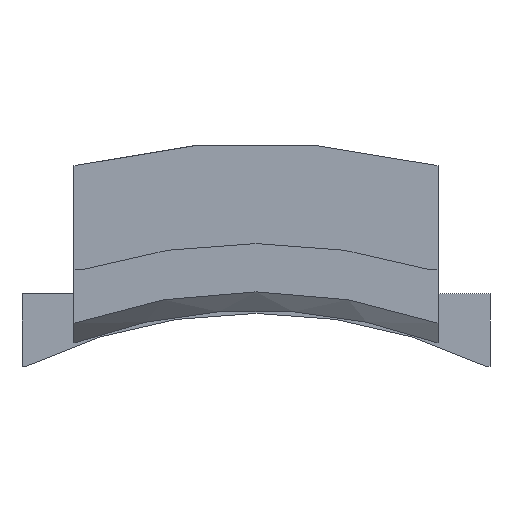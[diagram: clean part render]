
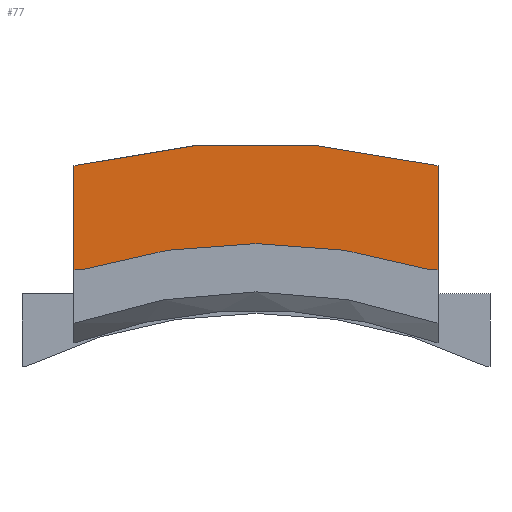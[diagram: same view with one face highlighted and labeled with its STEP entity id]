
A CAD part, front view. The second image highlights one B-rep face of the part: STEP entity #77.
In plain terms, the highlighted planar face has unit normal (0, -1, 0).
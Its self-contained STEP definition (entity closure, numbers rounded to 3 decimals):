
#77 = ADVANCED_FACE( '', ( #110 ), #111, .T. );
#110 = FACE_OUTER_BOUND( '', #170, .T. );
#111 = PLANE( '', #171 );
#170 = EDGE_LOOP( '', ( #252, #253, #254, #255, #256, #257 ) );
#171 = AXIS2_PLACEMENT_3D( '', #258, #259, #260 );
#252 = ORIENTED_EDGE( '', *, *, #486, .T. );
#253 = ORIENTED_EDGE( '', *, *, #503, .T. );
#254 = ORIENTED_EDGE( '', *, *, #504, .T. );
#255 = ORIENTED_EDGE( '', *, *, #505, .F. );
#256 = ORIENTED_EDGE( '', *, *, #506, .T. );
#257 = ORIENTED_EDGE( '', *, *, #488, .T. );
#258 = CARTESIAN_POINT( '', ( 3.225, 0., 8.402 ) );
#259 = DIRECTION( '', ( 0., -1., 0. ) );
#260 = DIRECTION( '', ( 0.358, 0., 0.934 ) );
#486 = EDGE_CURVE( '', #573, #571, #574, .T. );
#488 = EDGE_CURVE( '', #576, #573, #577, .T. );
#503 = EDGE_CURVE( '', #571, #605, #606, .T. );
#504 = EDGE_CURVE( '', #605, #607, #608, .T. );
#505 = EDGE_CURVE( '', #609, #607, #610, .T. );
#506 = EDGE_CURVE( '', #609, #576, #611, .T. );
#571 = VERTEX_POINT( '', #720 );
#573 = VERTEX_POINT( '', #723 );
#574 = CIRCLE( '', #724, 10.154 );
#576 = VERTEX_POINT( '', #727 );
#577 = LINE( '', #728, #729 );
#605 = VERTEX_POINT( '', #787 );
#606 = LINE( '', #788, #789 );
#607 = VERTEX_POINT( '', #790 );
#608 = LINE( '', #791, #792 );
#609 = VERTEX_POINT( '', #793 );
#610 = CIRCLE( '', #794, 8. );
#611 = LINE( '', #795, #796 );
#720 = CARTESIAN_POINT( '', ( -2.45, 0., 9.05 ) );
#723 = CARTESIAN_POINT( '', ( 2.45, 0., 9.05 ) );
#724 = AXIS2_PLACEMENT_3D( '', #970, #971, #972 );
#727 = CARTESIAN_POINT( '', ( 2.45, 0., 7.65 ) );
#728 = CARTESIAN_POINT( '', ( 2.45, 0., 4.201 ) );
#729 = VECTOR( '', #974, 1. );
#787 = CARTESIAN_POINT( '', ( -2.45, 0., 7.65 ) );
#788 = CARTESIAN_POINT( '', ( -2.45, 0., 4.201 ) );
#789 = VECTOR( '', #987, 1. );
#790 = CARTESIAN_POINT( '', ( -2.34, 0., 7.65 ) );
#791 = CARTESIAN_POINT( '', ( 4.113, 0., 7.65 ) );
#792 = VECTOR( '', #988, 1. );
#793 = CARTESIAN_POINT( '', ( 2.34, 0., 7.65 ) );
#794 = AXIS2_PLACEMENT_3D( '', #989, #990, #991 );
#795 = CARTESIAN_POINT( '', ( 4.113, 0., 7.65 ) );
#796 = VECTOR( '', #992, 1. );
#970 = CARTESIAN_POINT( '', ( 0., 0., -0.804 ) );
#971 = DIRECTION( '', ( 0., -1., 0. ) );
#972 = DIRECTION( '', ( 0.241, 0., 0.97 ) );
#974 = DIRECTION( '', ( 0., 0., 1. ) );
#987 = DIRECTION( '', ( 0., 0., -1. ) );
#988 = DIRECTION( '', ( 1., 0., 0. ) );
#989 = CARTESIAN_POINT( '', ( 0., 0., 0. ) );
#990 = DIRECTION( '', ( 0., -1., 0. ) );
#991 = DIRECTION( '', ( 0.358, 0., 0.934 ) );
#992 = DIRECTION( '', ( 1., 0., 0. ) );
